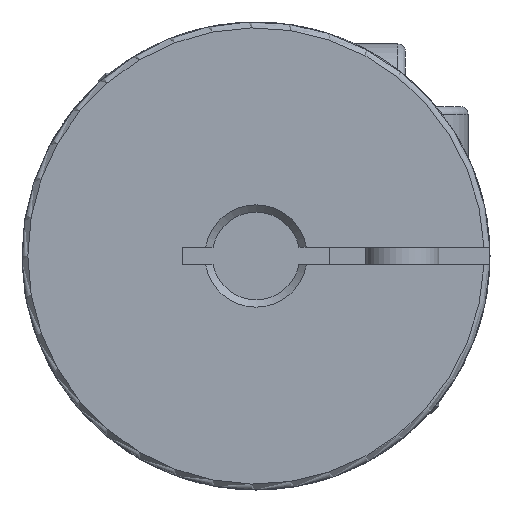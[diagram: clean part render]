
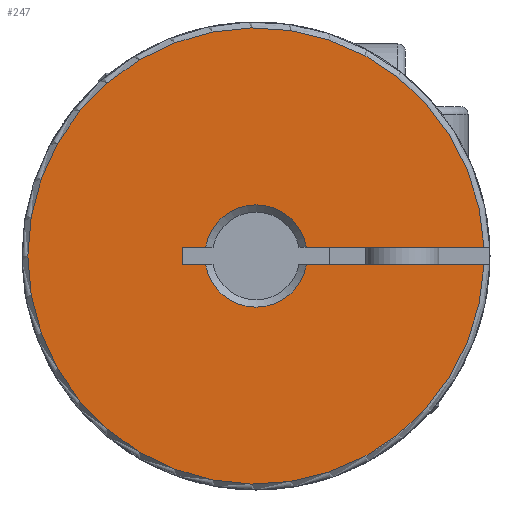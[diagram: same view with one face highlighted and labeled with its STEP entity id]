
A CAD part, left-side view. The second image highlights one B-rep face of the part: STEP entity #247.
In plain terms, the highlighted planar face has unit normal (-1, 0, 0).
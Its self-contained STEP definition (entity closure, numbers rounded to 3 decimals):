
#247 = ADVANCED_FACE( '', ( #592 ), #593, .T. );
#592 = FACE_OUTER_BOUND( '', #1139, .T. );
#593 = PLANE( '', #1140 );
#1139 = EDGE_LOOP( '', ( #2069, #2070, #2071, #2072, #2073, #2074, #2075, #2076 ) );
#1140 = AXIS2_PLACEMENT_3D( '', #2077, #2078, #2079 );
#2069 = ORIENTED_EDGE( '', *, *, #3054, .T. );
#2070 = ORIENTED_EDGE( '', *, *, #3085, .T. );
#2071 = ORIENTED_EDGE( '', *, *, #3125, .T. );
#2072 = ORIENTED_EDGE( '', *, *, #3132, .T. );
#2073 = ORIENTED_EDGE( '', *, *, #3133, .T. );
#2074 = ORIENTED_EDGE( '', *, *, #3134, .T. );
#2075 = ORIENTED_EDGE( '', *, *, #3135, .T. );
#2076 = ORIENTED_EDGE( '', *, *, #3025, .T. );
#2077 = CARTESIAN_POINT( '', ( 0., 0., 1.5 ) );
#2078 = DIRECTION( '', ( -1., 0., 0. ) );
#2079 = DIRECTION( '', ( 0., 0., 1. ) );
#3025 = EDGE_CURVE( '', #3571, #3580, #3582, .T. );
#3054 = EDGE_CURVE( '', #3580, #3630, #3631, .T. );
#3085 = EDGE_CURVE( '', #3630, #3679, #3680, .T. );
#3125 = EDGE_CURVE( '', #3679, #3742, #3743, .T. );
#3132 = EDGE_CURVE( '', #3742, #3751, #3752, .T. );
#3133 = EDGE_CURVE( '', #3751, #3753, #3754, .T. );
#3134 = EDGE_CURVE( '', #3753, #3755, #3756, .T. );
#3135 = EDGE_CURVE( '', #3755, #3571, #3757, .T. );
#3571 = VERTEX_POINT( '', #4389 );
#3580 = VERTEX_POINT( '', #4401 );
#3582 = LINE( '', #4403, #4404 );
#3630 = VERTEX_POINT( '', #4488 );
#3631 = CIRCLE( '', #4489, 1.75 );
#3679 = VERTEX_POINT( '', #4584 );
#3680 = LINE( '', #4585, #4586 );
#3742 = VERTEX_POINT( '', #4672 );
#3743 = CIRCLE( '', #4673, 7.8 );
#3751 = VERTEX_POINT( '', #4687 );
#3752 = LINE( '', #4688, #4689 );
#3753 = VERTEX_POINT( '', #4690 );
#3754 = CIRCLE( '', #4691, 1.75 );
#3755 = VERTEX_POINT( '', #4692 );
#3756 = LINE( '', #4693, #4694 );
#3757 = LINE( '', #4695, #4696 );
#4389 = CARTESIAN_POINT( '', ( 0., 2.5, 0.3 ) );
#4401 = CARTESIAN_POINT( '', ( 0., 1.724, 0.3 ) );
#4403 = CARTESIAN_POINT( '', ( 0., 0., 0.3 ) );
#4404 = VECTOR( '', #5557, 1000. );
#4488 = CARTESIAN_POINT( '', ( 0., -1.724, 0.3 ) );
#4489 = AXIS2_PLACEMENT_3D( '', #5584, #5585, #5586 );
#4584 = CARTESIAN_POINT( '', ( 0., -7.794, 0.3 ) );
#4585 = CARTESIAN_POINT( '', ( 0., 0., 0.3 ) );
#4586 = VECTOR( '', #5624, 1000. );
#4672 = CARTESIAN_POINT( '', ( 0., -7.794, -0.3 ) );
#4673 = AXIS2_PLACEMENT_3D( '', #5684, #5685, #5686 );
#4687 = CARTESIAN_POINT( '', ( 0., -1.724, -0.3 ) );
#4688 = CARTESIAN_POINT( '', ( 0., 0., -0.3 ) );
#4689 = VECTOR( '', #5694, 1000. );
#4690 = CARTESIAN_POINT( '', ( 0., 1.724, -0.3 ) );
#4691 = AXIS2_PLACEMENT_3D( '', #5695, #5696, #5697 );
#4692 = CARTESIAN_POINT( '', ( 0., 2.5, -0.3 ) );
#4693 = CARTESIAN_POINT( '', ( 0., 0., -0.3 ) );
#4694 = VECTOR( '', #5698, 1000. );
#4695 = CARTESIAN_POINT( '', ( 0., 2.5, 1.5 ) );
#4696 = VECTOR( '', #5699, 1000. );
#5557 = DIRECTION( '', ( 0., -1., 0. ) );
#5584 = CARTESIAN_POINT( '', ( 0., 0., 0. ) );
#5585 = DIRECTION( '', ( 1., 0., 0. ) );
#5586 = DIRECTION( '', ( 0., 0., 1. ) );
#5624 = DIRECTION( '', ( 0., -1., 0. ) );
#5684 = CARTESIAN_POINT( '', ( 0., 0., 0. ) );
#5685 = DIRECTION( '', ( -1., 0., 0. ) );
#5686 = DIRECTION( '', ( 0., 0., 1. ) );
#5694 = DIRECTION( '', ( 0., 1., 0. ) );
#5695 = CARTESIAN_POINT( '', ( 0., 0., 0. ) );
#5696 = DIRECTION( '', ( 1., 0., 0. ) );
#5697 = DIRECTION( '', ( 0., 0., 1. ) );
#5698 = DIRECTION( '', ( 0., 1., 0. ) );
#5699 = DIRECTION( '', ( 0., 0., 1. ) );
